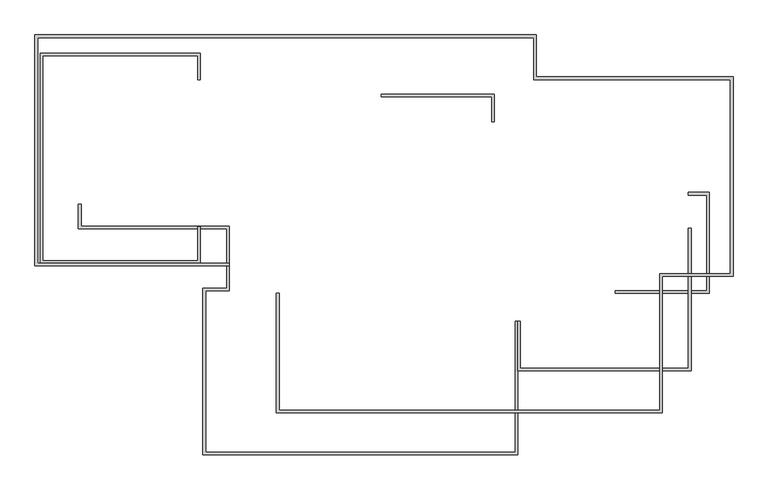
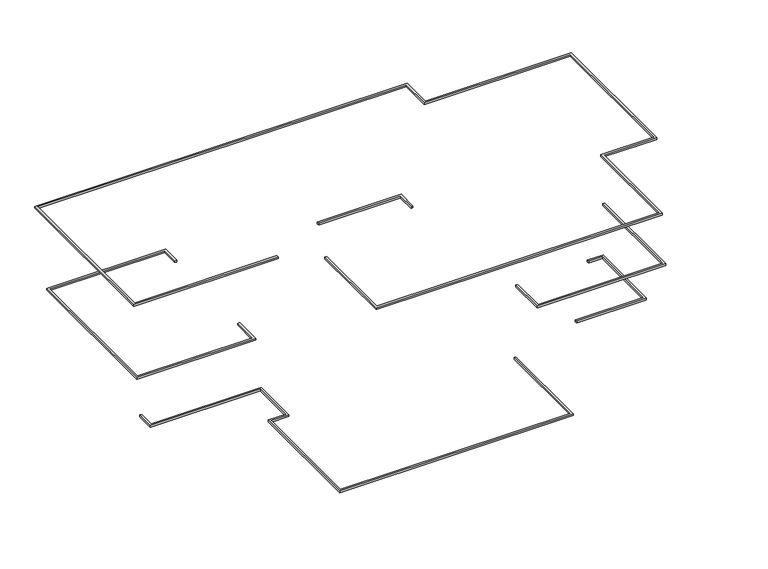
"""IFC4 building model written with IfcOpenShell, lengths in millimetres: proxy geometry, 常规模型 1 : 常规模型 1."""

from ifc_helpers import new_model, si_unit, frame, origin, place, context, project, spatial, polyline, outline, extrude, source, transform, mapped, element, save


def generic_models_e143e167(model_context):
    return source(origin(), model_context, "Body", "SweptSolid", [
        extrude(outline(polyline([(-590.9475695, -7071.4172231), (-490.9475695, -7071.4172231), (-490.9475695, -11521.4172231), (14009.0524305, -11521.4172231), (14009.0524305, -6321.4172231), (16709.0524305, -6321.4172231), (16709.0524305, 1078.5827769), (9209.0524305, 1078.5827769), (9209.0524305, 2678.5827769), (-9690.9475695, 2678.5827769), (-9690.9475695, -5921.4172231), (-2390.9475695, -5921.4172231), (-2390.9475695, -6021.4172231), (-9790.9475695, -6021.4172231), (-9790.9475695, 2778.5827769), (9309.0524305, 2778.5827769), (9309.0524305, 1178.5827769), (16809.0524305, 1178.5827769), (16809.0524305, -6421.4172231), (14109.0524305, -6421.4172231), (14109.0524305, -11621.4172231), (-590.9475695, -11621.4172231), (-590.9475695, -7071.4172231)])), frame((0.0, 0.0, 7900.0), z_axis=(0.0, 0.0, 1.0), x_axis=(1.0, 0.0, 0.0)), (0.0, 0.0, 1.0), 100.0),
        extrude(outline(polyline([(7709.0524305, -521.4172231), (7609.0524305, -521.4172231), (7609.0524305, 418.5827769), (3409.0524305, 418.5827769), (3409.0524305, 518.5827769), (7709.0524305, 518.5827769), (7709.0524305, -521.4172231)])), frame((0.0, 0.0, 3800.0), z_axis=(0.0, 0.0, 1.0), x_axis=(1.0, 0.0, 0.0)), (0.0, 0.0, 1.0), 100.0),
        extrude(outline(polyline([(8609.0524305, -8121.4172231), (8709.0524305, -8121.4172231), (8709.0524305, -9921.4172231), (15109.0524305, -9921.4172231), (15109.0524305, -4581.4172231), (15209.0524305, -4581.4172231), (15209.0524305, -10021.4172231), (8609.0524305, -10021.4172231), (8609.0524305, -8121.4172231)])), frame((0.0, 0.0, 3800.0), z_axis=(0.0, 0.0, 1.0), x_axis=(1.0, 0.0, 0.0)), (0.0, 0.0, 1.0), 100.0),
        extrude(outline(polyline([(-3490.9475695, 1078.5827769), (-3590.9475695, 1078.5827769), (-3590.9475695, 1978.5827769), (-9490.9475695, 1978.5827769), (-9490.9475695, -5821.4172231), (-3590.9475695, -5821.4172231), (-3590.9475695, -4521.4172231), (-3490.9475695, -4521.4172231), (-3490.9475695, -5921.4172231), (-9590.9475695, -5921.4172231), (-9590.9475695, 2078.5827769), (-3490.9475695, 2078.5827769), (-3490.9475695, 1078.5827769)])), frame((0.0, 0.0, 3800.0), z_axis=(0.0, 0.0, 1.0), x_axis=(1.0, 0.0, 0.0)), (0.0, 0.0, 1.0), 100.0),
        extrude(outline(polyline([(12324.0524305, -7071.4172231), (12324.0524305, -6971.4172231), (15809.0524305, -6971.4172231), (15809.0524305, -3321.4172231), (15109.0524305, -3321.4172231), (15109.0524305, -3221.4172231), (15909.0524305, -3221.4172231), (15909.0524305, -7071.4172231), (12324.0524305, -7071.4172231)])), frame((0.0, 0.0, -100.0), z_axis=(0.0, 0.0, 1.0), x_axis=(1.0, 0.0, 0.0)), (0.0, 0.0, 1.0), 100.0),
        extrude(outline(polyline([(-8130.9475695, -3671.4172231), (-8030.9475695, -3671.4172231), (-8030.9475695, -4511.4172231), (-2390.9475695, -4511.4172231), (-2390.9475695, -6971.4172231), (-3290.9475695, -6971.4172231), (-3290.9475695, -13121.4172231), (8509.0524305, -13121.4172231), (8509.0524305, -8121.4172231), (8609.0524305, -8121.4172231), (8609.0524305, -13221.4172231), (-3390.9475695, -13221.4172231), (-3390.9475695, -6871.4172231), (-2490.9475695, -6871.4172231), (-2490.9475695, -4611.4172231), (-8130.9475695, -4611.4172231), (-8130.9475695, -3671.4172231)])), frame((0.0, 0.0, -100.0), z_axis=(0.0, 0.0, 1.0), x_axis=(1.0, 0.0, 0.0)), (0.0, 0.0, 1.0), 100.0),
    ])


if __name__ == "__main__":
    model = new_model("IFC4")
    model_context = context("Model", 3, world=origin())
    ifc_project = project(units=[si_unit("LENGTHUNIT", "METRE", prefix="MILLI")], contexts=[model_context])
    site = spatial("IfcSite", under=ifc_project)
    building = spatial("IfcBuilding", under=site)
    placement = place(None, origin())
    generic_models_shape = generic_models_e143e167(model_context)
    element("IfcBuildingElementProxy", 1, Name="常规模型 1 : 常规模型 1", ObjectType="常规模型 1 : 常规模型 1", at=placement, inside=building, context=model_context, shape_type="MappedRepresentation", body=[
        mapped(generic_models_shape, transform((0.0, 0.0, 0.0), x_axis=(1.0, 0.0, 0.0), y_axis=(0.0, 1.0, 0.0), z_axis=(0.0, 0.0, 1.0))),
    ])
    save(model, "model.ifc")
